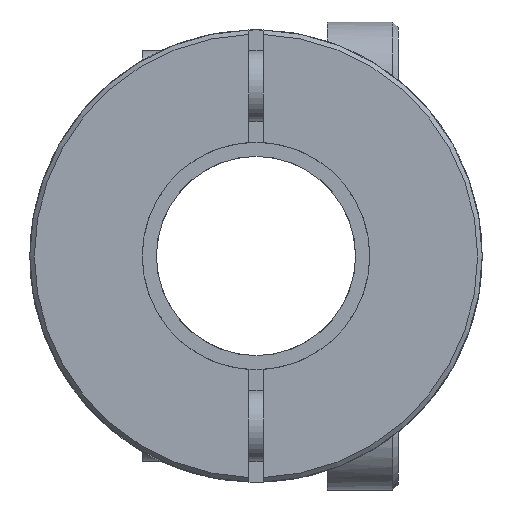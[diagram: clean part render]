
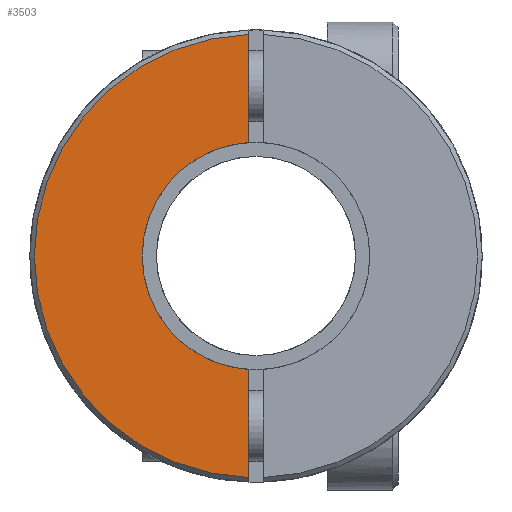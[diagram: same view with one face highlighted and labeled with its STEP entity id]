
A CAD part, front view. The second image highlights one B-rep face of the part: STEP entity #3503.
In plain terms, the highlighted planar face has unit normal (0, -1, 0).
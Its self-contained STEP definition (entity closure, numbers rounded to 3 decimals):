
#1=DIRECTION('',(0.,0.,-1.));
#2=VECTOR('',#1,3.794);
#3=CARTESIAN_POINT('',(-0.25,-12.7,7.786));
#4=LINE('',#3,#2);
#5=DIRECTION('',(0.,0.,-1.));
#6=VECTOR('',#5,3.794);
#7=CARTESIAN_POINT('',(-0.25,-12.7,-3.992));
#8=LINE('',#7,#6);
#72=CARTESIAN_POINT('',(0.,-12.7,0.));
#73=DIRECTION('',(0.,1.,0.));
#74=DIRECTION('',(-0.063,0.,-0.998));
#75=AXIS2_PLACEMENT_3D('',#72,#73,#74);
#2549=CARTESIAN_POINT('',(0.,-12.7,0.));
#2550=DIRECTION('',(0.,-1.,0.));
#2551=DIRECTION('',(-0.032,0.,0.999));
#2552=AXIS2_PLACEMENT_3D('',#2549,#2550,#2551);
#3168=CARTESIAN_POINT('',(-0.25,-12.7,7.786));
#3169=CARTESIAN_POINT('',(-0.25,-12.7,3.992));
#3170=VERTEX_POINT('',#3168);
#3171=VERTEX_POINT('',#3169);
#3172=CARTESIAN_POINT('',(-0.25,-12.7,-3.992));
#3173=CARTESIAN_POINT('',(-0.25,-12.7,-7.786));
#3174=VERTEX_POINT('',#3172);
#3175=VERTEX_POINT('',#3173);
#3488=CARTESIAN_POINT('',(0.,-12.7,0.));
#3489=DIRECTION('',(0.,1.,0.));
#3490=DIRECTION('',(1.,0.,0.));
#3491=AXIS2_PLACEMENT_3D('',#3488,#3489,#3490);
#3492=PLANE('',#3491);
#3494=ORIENTED_EDGE('',*,*,#3493,.T.);
#3496=ORIENTED_EDGE('',*,*,#3495,.F.);
#3498=ORIENTED_EDGE('',*,*,#3497,.T.);
#3500=ORIENTED_EDGE('',*,*,#3499,.F.);
#3501=EDGE_LOOP('',(#3494,#3496,#3498,#3500));
#3502=FACE_OUTER_BOUND('',#3501,.F.);
#3503=ADVANCED_FACE('',(#3502),#3492,.F.);
#76=CIRCLE('',#75,4.);
#2553=CIRCLE('',#2552,7.79);
#3493=EDGE_CURVE('',#3170,#3171,#4,.T.);
#3495=EDGE_CURVE('',#3174,#3171,#76,.T.);
#3497=EDGE_CURVE('',#3174,#3175,#8,.T.);
#3499=EDGE_CURVE('',#3170,#3175,#2553,.T.);
